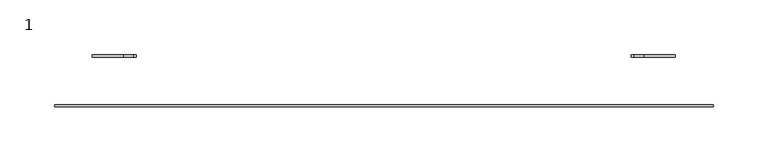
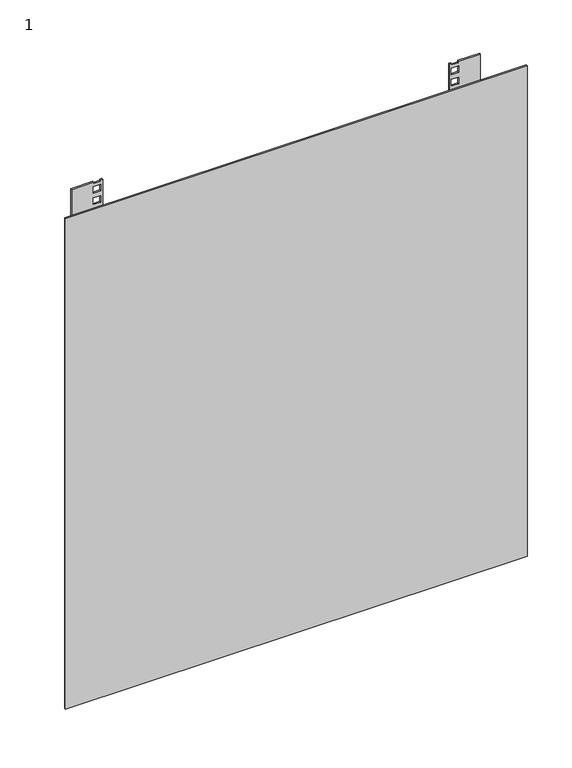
"""IFC4 building model written with IfcOpenShell, lengths in millimetres: proxy geometry, 1 : 15U 600мм металлическая дверь."""

from ifc_helpers import new_model, si_unit, frame, origin, place, context, project, spatial, polyline, outline, extrude, source, transform, mapped, element, save


def proxy_1_97165bea(model_context):
    return source(origin(), model_context, "Body", "SweptSolid", [
        extrude(outline(polyline([(20.4675, 225.3), (20.4675, 265.3), (714.4675, 265.3), (714.4675, 237.05), (712.8175, 237.05), (712.8175, 227.55), (714.4675, 227.55), (714.4675, 225.3), (20.4675, 225.3)]), holes=[polyline([(55.0175, 227.55), (55.0175, 237.05), (46.0675, 237.05), (46.0675, 227.55), (55.0175, 227.55)]), polyline([(70.6675, 227.55), (70.6675, 237.05), (61.7175, 237.05), (61.7175, 227.55), (70.6675, 227.55)]), polyline([(86.3175, 227.55), (86.3175, 237.05), (77.3675, 237.05), (77.3675, 227.55), (86.3175, 227.55)]), polyline([(99.4675, 237.05), (90.5175, 237.05), (90.5175, 227.55), (99.4675, 227.55), (99.4675, 237.05)]), polyline([(115.1175, 237.05), (106.1675, 237.05), (106.1675, 227.55), (115.1175, 227.55), (115.1175, 237.05)]), polyline([(130.7675, 237.05), (121.8175, 237.05), (121.8175, 227.55), (130.7675, 227.55), (130.7675, 237.05)]), polyline([(143.9175, 237.05), (134.9675, 237.05), (134.9675, 227.55), (143.9175, 227.55), (143.9175, 237.05)]), polyline([(159.5675, 237.05), (150.6175, 237.05), (150.6175, 227.55), (159.5675, 227.55), (159.5675, 237.05)]), polyline([(175.2175, 237.05), (166.2675, 237.05), (166.2675, 227.55), (175.2175, 227.55), (175.2175, 237.05)]), polyline([(188.3675, 237.05), (179.4175, 237.05), (179.4175, 227.55), (188.3675, 227.55), (188.3675, 237.05)]), polyline([(204.0175, 237.05), (195.0675, 237.05), (195.0675, 227.55), (204.0175, 227.55), (204.0175, 237.05)]), polyline([(219.6675, 237.05), (210.7175, 237.05), (210.7175, 227.55), (219.6675, 227.55), (219.6675, 237.05)]), polyline([(232.8175, 237.05), (223.8675, 237.05), (223.8675, 227.55), (232.8175, 227.55), (232.8175, 237.05)]), polyline([(248.4675, 237.05), (239.5175, 237.05), (239.5175, 227.55), (248.4675, 227.55), (248.4675, 237.05)]), polyline([(264.1175, 237.05), (255.1675, 237.05), (255.1675, 227.55), (264.1175, 227.55), (264.1175, 237.05)]), polyline([(277.2675, 237.05), (268.3175, 237.05), (268.3175, 227.55), (277.2675, 227.55), (277.2675, 237.05)]), polyline([(292.9175, 237.05), (283.9675, 237.05), (283.9675, 227.55), (292.9175, 227.55), (292.9175, 237.05)]), polyline([(308.5675, 237.05), (299.6175, 237.05), (299.6175, 227.55), (308.5675, 227.55), (308.5675, 237.05)]), polyline([(321.7175, 237.05), (312.7675, 237.05), (312.7675, 227.55), (321.7175, 227.55), (321.7175, 237.05)]), polyline([(337.3675, 237.05), (328.4175, 237.05), (328.4175, 227.55), (337.3675, 227.55), (337.3675, 237.05)]), polyline([(353.0175, 237.05), (344.0675, 237.05), (344.0675, 227.55), (353.0175, 227.55), (353.0175, 237.05)]), polyline([(366.1675, 237.05), (357.2175, 237.05), (357.2175, 227.55), (366.1675, 227.55), (366.1675, 237.05)]), polyline([(381.8175, 237.05), (372.8675, 237.05), (372.8675, 227.55), (381.8175, 227.55), (381.8175, 237.05)]), polyline([(397.4675, 237.05), (388.5175, 237.05), (388.5175, 227.55), (397.4675, 227.55), (397.4675, 237.05)]), polyline([(410.6175, 237.05), (401.6675, 237.05), (401.6675, 227.55), (410.6175, 227.55), (410.6175, 237.05)]), polyline([(426.2675, 237.05), (417.3175, 237.05), (417.3175, 227.55), (426.2675, 227.55), (426.2675, 237.05)]), polyline([(441.9175, 237.05), (432.9675, 237.05), (432.9675, 227.55), (441.9175, 227.55), (441.9175, 237.05)]), polyline([(455.0675, 237.05), (446.1175, 237.05), (446.1175, 227.55), (455.0675, 227.55), (455.0675, 237.05)]), polyline([(470.7175, 237.05), (461.7675, 237.05), (461.7675, 227.55), (470.7175, 227.55), (470.7175, 237.05)]), polyline([(486.3675, 237.05), (477.4175, 237.05), (477.4175, 227.55), (486.3675, 227.55), (486.3675, 237.05)]), polyline([(499.5175, 237.05), (490.5675, 237.05), (490.5675, 227.55), (499.5175, 227.55), (499.5175, 237.05)]), polyline([(515.1675, 237.05), (506.2175, 237.05), (506.2175, 227.55), (515.1675, 227.55), (515.1675, 237.05)]), polyline([(530.8175, 237.05), (521.8675, 237.05), (521.8675, 227.55), (530.8175, 227.55), (530.8175, 237.05)]), polyline([(543.9675, 237.05), (535.0175, 237.05), (535.0175, 227.55), (543.9675, 227.55), (543.9675, 237.05)]), polyline([(559.6175, 237.05), (550.6675, 237.05), (550.6675, 227.55), (559.6175, 227.55), (559.6175, 237.05)]), polyline([(575.2675, 237.05), (566.3175, 237.05), (566.3175, 227.55), (575.2675, 227.55), (575.2675, 237.05)]), polyline([(588.4175, 237.05), (579.4675, 237.05), (579.4675, 227.55), (588.4175, 227.55), (588.4175, 237.05)]), polyline([(604.0675, 237.05), (595.1175, 237.05), (595.1175, 227.55), (604.0675, 227.55), (604.0675, 237.05)]), polyline([(619.7175, 237.05), (610.7675, 237.05), (610.7675, 227.55), (619.7175, 227.55), (619.7175, 237.05)]), polyline([(632.8675, 237.05), (623.9175, 237.05), (623.9175, 227.55), (632.8675, 227.55), (632.8675, 237.05)]), polyline([(648.5175, 237.05), (639.5675, 237.05), (639.5675, 227.55), (648.5175, 227.55), (648.5175, 237.05)]), polyline([(664.1675, 237.05), (655.2175, 237.05), (655.2175, 227.55), (664.1675, 227.55), (664.1675, 237.05)]), polyline([(677.3175, 237.05), (668.3675, 237.05), (668.3675, 227.55), (677.3175, 227.55), (677.3175, 237.05)]), polyline([(692.9675, 237.05), (684.0175, 237.05), (684.0175, 227.55), (692.9675, 227.55), (692.9675, 237.05)]), polyline([(708.6175, 237.05), (699.6675, 237.05), (699.6675, 227.55), (708.6175, 227.55), (708.6175, 237.05)])]), frame((0.0, -254.6777479, 0.0), z_axis=(0.0, 1.0, 0.0), x_axis=(0.0, 0.0, 1.0)), (0.0, 0.0, 1.0), 2.0),
        extrude(outline(polyline([(20.4675, -265.7), (20.4675, -225.7), (714.4675, -225.7), (714.4675, -227.95), (712.8175, -227.95), (712.8175, -237.45), (714.4675, -237.45), (714.4675, -265.7), (20.4675, -265.7)]), holes=[polyline([(55.0175, -237.45), (55.0175, -227.95), (46.0675, -227.95), (46.0675, -237.45), (55.0175, -237.45)]), polyline([(70.6675, -237.45), (70.6675, -227.95), (61.7175, -227.95), (61.7175, -237.45), (70.6675, -237.45)]), polyline([(86.3175, -237.45), (86.3175, -227.95), (77.3675, -227.95), (77.3675, -237.45), (86.3175, -237.45)]), polyline([(90.5175, -237.45), (99.4675, -237.45), (99.4675, -227.95), (90.5175, -227.95), (90.5175, -237.45)]), polyline([(106.1675, -237.45), (115.1175, -237.45), (115.1175, -227.95), (106.1675, -227.95), (106.1675, -237.45)]), polyline([(121.8175, -237.45), (130.7675, -237.45), (130.7675, -227.95), (121.8175, -227.95), (121.8175, -237.45)]), polyline([(134.9675, -237.45), (143.9175, -237.45), (143.9175, -227.95), (134.9675, -227.95), (134.9675, -237.45)]), polyline([(150.6175, -237.45), (159.5675, -237.45), (159.5675, -227.95), (150.6175, -227.95), (150.6175, -237.45)]), polyline([(166.2675, -237.45), (175.2175, -237.45), (175.2175, -227.95), (166.2675, -227.95), (166.2675, -237.45)]), polyline([(179.4175, -237.45), (188.3675, -237.45), (188.3675, -227.95), (179.4175, -227.95), (179.4175, -237.45)]), polyline([(195.0675, -237.45), (204.0175, -237.45), (204.0175, -227.95), (195.0675, -227.95), (195.0675, -237.45)]), polyline([(210.7175, -237.45), (219.6675, -237.45), (219.6675, -227.95), (210.7175, -227.95), (210.7175, -237.45)]), polyline([(223.8675, -237.45), (232.8175, -237.45), (232.8175, -227.95), (223.8675, -227.95), (223.8675, -237.45)]), polyline([(239.5175, -237.45), (248.4675, -237.45), (248.4675, -227.95), (239.5175, -227.95), (239.5175, -237.45)]), polyline([(255.1675, -237.45), (264.1175, -237.45), (264.1175, -227.95), (255.1675, -227.95), (255.1675, -237.45)]), polyline([(268.3175, -237.45), (277.2675, -237.45), (277.2675, -227.95), (268.3175, -227.95), (268.3175, -237.45)]), polyline([(283.9675, -237.45), (292.9175, -237.45), (292.9175, -227.95), (283.9675, -227.95), (283.9675, -237.45)]), polyline([(299.6175, -237.45), (308.5675, -237.45), (308.5675, -227.95), (299.6175, -227.95), (299.6175, -237.45)]), polyline([(312.7675, -237.45), (321.7175, -237.45), (321.7175, -227.95), (312.7675, -227.95), (312.7675, -237.45)]), polyline([(328.4175, -237.45), (337.3675, -237.45), (337.3675, -227.95), (328.4175, -227.95), (328.4175, -237.45)]), polyline([(344.0675, -237.45), (353.0175, -237.45), (353.0175, -227.95), (344.0675, -227.95), (344.0675, -237.45)]), polyline([(357.2175, -237.45), (366.1675, -237.45), (366.1675, -227.95), (357.2175, -227.95), (357.2175, -237.45)]), polyline([(372.8675, -237.45), (381.8175, -237.45), (381.8175, -227.95), (372.8675, -227.95), (372.8675, -237.45)]), polyline([(388.5175, -237.45), (397.4675, -237.45), (397.4675, -227.95), (388.5175, -227.95), (388.5175, -237.45)]), polyline([(401.6675, -237.45), (410.6175, -237.45), (410.6175, -227.95), (401.6675, -227.95), (401.6675, -237.45)]), polyline([(417.3175, -237.45), (426.2675, -237.45), (426.2675, -227.95), (417.3175, -227.95), (417.3175, -237.45)]), polyline([(432.9675, -237.45), (441.9175, -237.45), (441.9175, -227.95), (432.9675, -227.95), (432.9675, -237.45)]), polyline([(446.1175, -237.45), (455.0675, -237.45), (455.0675, -227.95), (446.1175, -227.95), (446.1175, -237.45)]), polyline([(461.7675, -237.45), (470.7175, -237.45), (470.7175, -227.95), (461.7675, -227.95), (461.7675, -237.45)]), polyline([(477.4175, -237.45), (486.3675, -237.45), (486.3675, -227.95), (477.4175, -227.95), (477.4175, -237.45)]), polyline([(490.5675, -237.45), (499.5175, -237.45), (499.5175, -227.95), (490.5675, -227.95), (490.5675, -237.45)]), polyline([(506.2175, -237.45), (515.1675, -237.45), (515.1675, -227.95), (506.2175, -227.95), (506.2175, -237.45)]), polyline([(521.8675, -237.45), (530.8175, -237.45), (530.8175, -227.95), (521.8675, -227.95), (521.8675, -237.45)]), polyline([(535.0175, -237.45), (543.9675, -237.45), (543.9675, -227.95), (535.0175, -227.95), (535.0175, -237.45)]), polyline([(550.6675, -237.45), (559.6175, -237.45), (559.6175, -227.95), (550.6675, -227.95), (550.6675, -237.45)]), polyline([(566.3175, -237.45), (575.2675, -237.45), (575.2675, -227.95), (566.3175, -227.95), (566.3175, -237.45)]), polyline([(579.4675, -237.45), (588.4175, -237.45), (588.4175, -227.95), (579.4675, -227.95), (579.4675, -237.45)]), polyline([(595.1175, -237.45), (604.0675, -237.45), (604.0675, -227.95), (595.1175, -227.95), (595.1175, -237.45)]), polyline([(610.7675, -237.45), (619.7175, -237.45), (619.7175, -227.95), (610.7675, -227.95), (610.7675, -237.45)]), polyline([(623.9175, -237.45), (632.8675, -237.45), (632.8675, -227.95), (623.9175, -227.95), (623.9175, -237.45)]), polyline([(639.5675, -237.45), (648.5175, -237.45), (648.5175, -227.95), (639.5675, -227.95), (639.5675, -237.45)]), polyline([(655.2175, -237.45), (664.1675, -237.45), (664.1675, -227.95), (655.2175, -227.95), (655.2175, -237.45)]), polyline([(668.3675, -237.45), (677.3175, -237.45), (677.3175, -227.95), (668.3675, -227.95), (668.3675, -237.45)]), polyline([(684.0175, -237.45), (692.9675, -237.45), (692.9675, -227.95), (684.0175, -227.95), (684.0175, -237.45)]), polyline([(699.6675, -237.45), (708.6175, -237.45), (708.6175, -227.95), (699.6675, -227.95), (699.6675, -237.45)])]), frame((0.0, -254.6777479, 0.0), z_axis=(0.0, 1.0, 0.0), x_axis=(0.0, 0.0, 1.0)), (0.0, 0.0, 1.0), 2.0),
        extrude(outline(polyline([(-300.0, -298.0), (300.0, -298.0), (300.0, -300.0), (-300.0, -300.0), (-300.0, -298.0)])), frame((0.0, 0.0, 40.0), z_axis=(0.0, 0.0, 1.0), x_axis=(1.0, 0.0, 0.0)), (0.0, 0.0, 1.0), 674.0),
    ])


if __name__ == "__main__":
    model = new_model("IFC4")
    model_context = context("Model", 3, world=origin())
    ifc_project = project(units=[si_unit("LENGTHUNIT", "METRE", prefix="MILLI")], contexts=[model_context])
    site = spatial("IfcSite", under=ifc_project)
    building = spatial("IfcBuilding", under=site)
    placement = place(None, origin())
    proxy_1_shape = proxy_1_97165bea(model_context)
    element("IfcBuildingElementProxy", 1, Name="1 : 15U 600мм металлическая дверь", ObjectType="1 : 15U 600мм металлическая дверь", at=placement, inside=building, context=model_context, shape_type="MappedRepresentation", body=[
        mapped(proxy_1_shape, transform((0.0, 0.0, 0.0), x_axis=(1.0, 0.0, 0.0), y_axis=(0.0, 1.0, 0.0), z_axis=(0.0, 0.0, 1.0))),
    ])
    save(model, "model.ifc")
